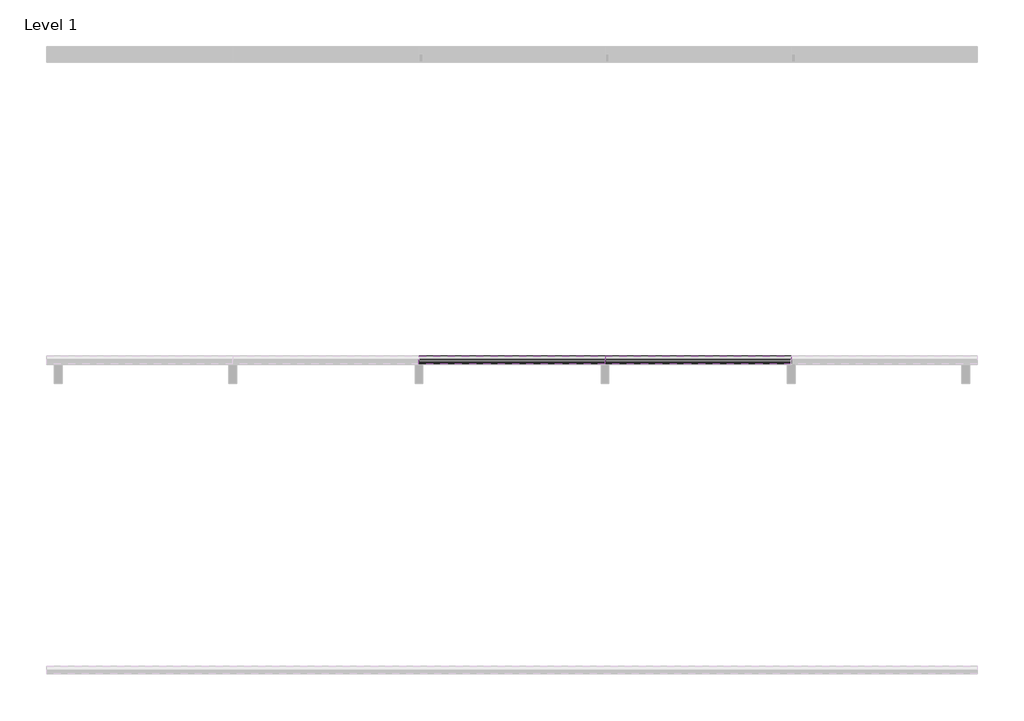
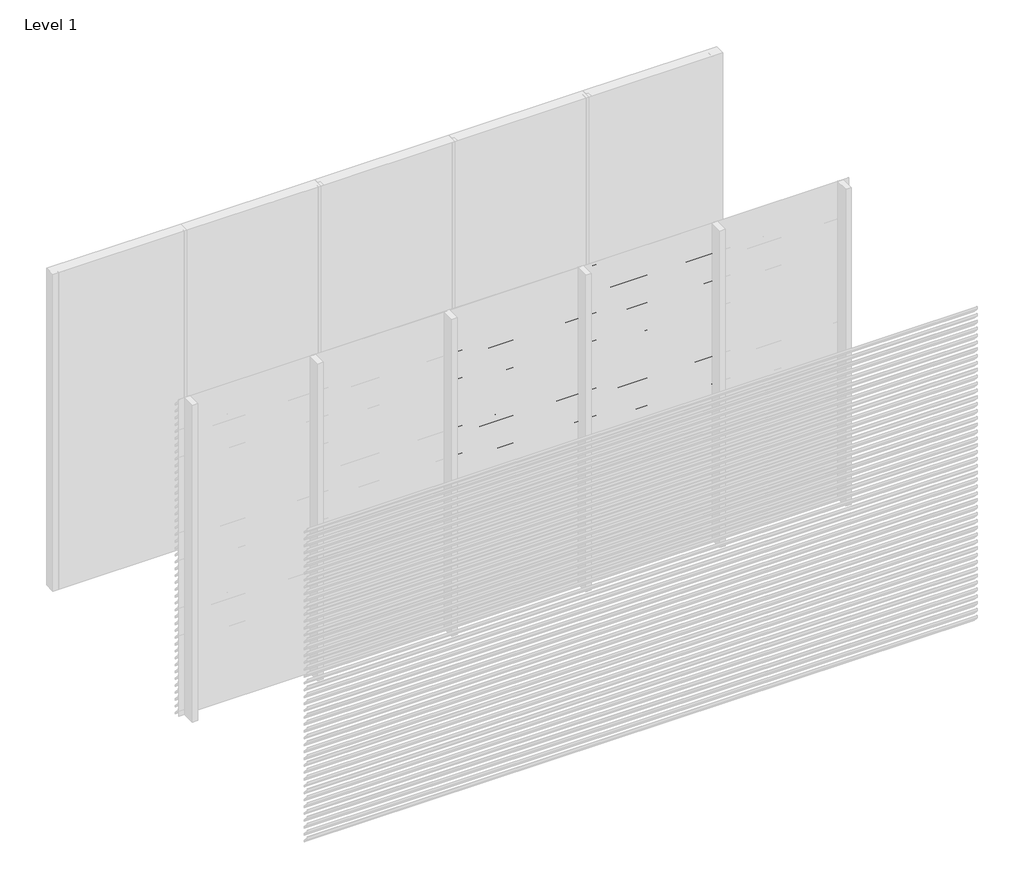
# One storey, part 3 of 12: 95 proxies.
"""IFC4 building model written with IfcOpenShell, lengths in millimetres."""

from ifc_helpers import new_model, si_unit, frame, origin, place, context, project, spatial, polyline, outline, extrude, element, save

model = new_model("IFC4")

# Units and contexts
model_context = context("Model", 3, world=origin())
ifc_project = project(units=[si_unit("LENGTHUNIT", "METRE", prefix="MILLI")], contexts=[model_context])

# Site, building, storey
site = spatial("IfcSite", under=ifc_project)
building = spatial("IfcBuilding", under=site)
storey = spatial("IfcBuildingStorey", under=building, Name="Level 1", Elevation=0.0)

# Proxies
placement = place(None, origin())
element("IfcBuildingElementProxy", 1, Name="Wall Sweeps", at=placement, inside=storey, context=model_context, shape_type="SweptSolid", body=[
    extrude(outline(polyline([(-17995.0, 2990.0), (-17995.0, 2980.7409854), (-17946.0, 2930.0), (-17946.0, 2914.0), (-17997.0, 2966.812046), (-17997.0, 2990.0), (-17995.0, 2990.0)])), frame((3599.9999999, 0.0, 0.0), z_axis=(1.0, 0.0, 0.0), x_axis=(0.0, 1.0, 0.0)), (0.0, 0.0, 1.0), 1199.9999999),
])
element("IfcBuildingElementProxy", 2, Name="Wall Sweeps", at=placement, inside=storey, context=model_context, shape_type="SweptSolid", body=[
    extrude(outline(polyline([(-17995.0, 2925.0), (-17995.0, 2915.7409854), (-17946.0, 2865.0), (-17946.0, 2849.0), (-17997.0, 2901.812046), (-17997.0, 2925.0), (-17995.0, 2925.0)])), frame((3599.9999999, 0.0, 0.0), z_axis=(1.0, 0.0, 0.0), x_axis=(0.0, 1.0, 0.0)), (0.0, 0.0, 1.0), 1199.9999999),
])
element("IfcBuildingElementProxy", 3, Name="Wall Sweeps", at=placement, inside=storey, context=model_context, shape_type="SweptSolid", body=[
    extrude(outline(polyline([(-17995.0, 2860.0), (-17995.0, 2850.7409854), (-17946.0, 2800.0), (-17946.0, 2784.0), (-17997.0, 2836.812046), (-17997.0, 2860.0), (-17995.0, 2860.0)])), frame((3599.9999999, 0.0, 0.0), z_axis=(1.0, 0.0, 0.0), x_axis=(0.0, 1.0, 0.0)), (0.0, 0.0, 1.0), 1199.9999999),
])
element("IfcBuildingElementProxy", 4, Name="Wall Sweeps", at=placement, inside=storey, context=model_context, shape_type="SweptSolid", body=[
    extrude(outline(polyline([(-17995.0, 2795.0), (-17995.0, 2785.7409854), (-17946.0, 2735.0), (-17946.0, 2719.0), (-17997.0, 2771.812046), (-17997.0, 2795.0), (-17995.0, 2795.0)])), frame((3599.9999999, 0.0, 0.0), z_axis=(1.0, 0.0, 0.0), x_axis=(0.0, 1.0, 0.0)), (0.0, 0.0, 1.0), 1199.9999999),
])
element("IfcBuildingElementProxy", 5, Name="Wall Sweeps", at=placement, inside=storey, context=model_context, shape_type="SweptSolid", body=[
    extrude(outline(polyline([(-17995.0, 2730.0), (-17995.0, 2720.7409854), (-17946.0, 2670.0), (-17946.0, 2654.0), (-17997.0, 2706.812046), (-17997.0, 2730.0), (-17995.0, 2730.0)])), frame((3599.9999999, 0.0, 0.0), z_axis=(1.0, 0.0, 0.0), x_axis=(0.0, 1.0, 0.0)), (0.0, 0.0, 1.0), 1199.9999999),
])
element("IfcBuildingElementProxy", 6, Name="Wall Sweeps", at=placement, inside=storey, context=model_context, shape_type="SweptSolid", body=[
    extrude(outline(polyline([(-17995.0, 2665.0), (-17995.0, 2655.7409854), (-17946.0, 2605.0), (-17946.0, 2589.0), (-17997.0, 2641.812046), (-17997.0, 2665.0), (-17995.0, 2665.0)])), frame((3599.9999999, 0.0, 0.0), z_axis=(1.0, 0.0, 0.0), x_axis=(0.0, 1.0, 0.0)), (0.0, 0.0, 1.0), 1199.9999999),
])
element("IfcBuildingElementProxy", 7, Name="Wall Sweeps", at=placement, inside=storey, context=model_context, shape_type="SweptSolid", body=[
    extrude(outline(polyline([(-17995.0, 2600.0), (-17995.0, 2590.7409854), (-17946.0, 2540.0), (-17946.0, 2524.0), (-17997.0, 2576.812046), (-17997.0, 2600.0), (-17995.0, 2600.0)])), frame((3599.9999999, 0.0, 0.0), z_axis=(1.0, 0.0, 0.0), x_axis=(0.0, 1.0, 0.0)), (0.0, 0.0, 1.0), 1199.9999999),
])
element("IfcBuildingElementProxy", 8, Name="Wall Sweeps", at=placement, inside=storey, context=model_context, shape_type="SweptSolid", body=[
    extrude(outline(polyline([(-17995.0, 2535.0), (-17995.0, 2525.7409854), (-17946.0, 2475.0), (-17946.0, 2459.0), (-17997.0, 2511.812046), (-17997.0, 2535.0), (-17995.0, 2535.0)])), frame((3599.9999999, 0.0, 0.0), z_axis=(1.0, 0.0, 0.0), x_axis=(0.0, 1.0, 0.0)), (0.0, 0.0, 1.0), 1199.9999999),
])
element("IfcBuildingElementProxy", 9, Name="Wall Sweeps", at=placement, inside=storey, context=model_context, shape_type="SweptSolid", body=[
    extrude(outline(polyline([(-17995.0, 2470.0), (-17995.0, 2460.7409854), (-17946.0, 2410.0), (-17946.0, 2394.0), (-17997.0, 2446.812046), (-17997.0, 2470.0), (-17995.0, 2470.0)])), frame((3599.9999999, 0.0, 0.0), z_axis=(1.0, 0.0, 0.0), x_axis=(0.0, 1.0, 0.0)), (0.0, 0.0, 1.0), 1199.9999999),
])
element("IfcBuildingElementProxy", 10, Name="Wall Sweeps", at=placement, inside=storey, context=model_context, shape_type="SweptSolid", body=[
    extrude(outline(polyline([(-17995.0, 2405.0), (-17995.0, 2395.7409854), (-17946.0, 2345.0), (-17946.0, 2329.0), (-17997.0, 2381.812046), (-17997.0, 2405.0), (-17995.0, 2405.0)])), frame((3599.9999999, 0.0, 0.0), z_axis=(1.0, 0.0, 0.0), x_axis=(0.0, 1.0, 0.0)), (0.0, 0.0, 1.0), 1199.9999999),
])
element("IfcBuildingElementProxy", 11, Name="Wall Sweeps", at=placement, inside=storey, context=model_context, shape_type="SweptSolid", body=[
    extrude(outline(polyline([(-17995.0, 2340.0), (-17995.0, 2330.7409854), (-17946.0, 2280.0), (-17946.0, 2264.0), (-17997.0, 2316.812046), (-17997.0, 2340.0), (-17995.0, 2340.0)])), frame((3599.9999999, 0.0, 0.0), z_axis=(1.0, 0.0, 0.0), x_axis=(0.0, 1.0, 0.0)), (0.0, 0.0, 1.0), 1199.9999999),
])
element("IfcBuildingElementProxy", 12, Name="Wall Sweeps", at=placement, inside=storey, context=model_context, shape_type="SweptSolid", body=[
    extrude(outline(polyline([(-17995.0, 2275.0), (-17995.0, 2265.7409854), (-17946.0, 2215.0), (-17946.0, 2199.0), (-17997.0, 2251.812046), (-17997.0, 2275.0), (-17995.0, 2275.0)])), frame((3599.9999999, 0.0, 0.0), z_axis=(1.0, 0.0, 0.0), x_axis=(0.0, 1.0, 0.0)), (0.0, 0.0, 1.0), 1199.9999999),
])
element("IfcBuildingElementProxy", 13, Name="Wall Sweeps", at=placement, inside=storey, context=model_context, shape_type="SweptSolid", body=[
    extrude(outline(polyline([(-17995.0, 2210.0), (-17995.0, 2200.7409854), (-17946.0, 2150.0), (-17946.0, 2134.0), (-17997.0, 2186.812046), (-17997.0, 2210.0), (-17995.0, 2210.0)])), frame((3599.9999999, 0.0, 0.0), z_axis=(1.0, 0.0, 0.0), x_axis=(0.0, 1.0, 0.0)), (0.0, 0.0, 1.0), 1199.9999999),
])
element("IfcBuildingElementProxy", 14, Name="Wall Sweeps", at=placement, inside=storey, context=model_context, shape_type="SweptSolid", body=[
    extrude(outline(polyline([(-17995.0, 2145.0), (-17995.0, 2135.7409854), (-17946.0, 2085.0), (-17946.0, 2069.0), (-17997.0, 2121.812046), (-17997.0, 2145.0), (-17995.0, 2145.0)])), frame((3599.9999999, 0.0, 0.0), z_axis=(1.0, 0.0, 0.0), x_axis=(0.0, 1.0, 0.0)), (0.0, 0.0, 1.0), 1199.9999999),
])
element("IfcBuildingElementProxy", 15, Name="Wall Sweeps", at=placement, inside=storey, context=model_context, shape_type="SweptSolid", body=[
    extrude(outline(polyline([(-17995.0, 2080.0), (-17995.0, 2070.7409854), (-17946.0, 2020.0), (-17946.0, 2004.0), (-17997.0, 2056.812046), (-17997.0, 2080.0), (-17995.0, 2080.0)])), frame((3599.9999999, 0.0, 0.0), z_axis=(1.0, 0.0, 0.0), x_axis=(0.0, 1.0, 0.0)), (0.0, 0.0, 1.0), 1199.9999999),
])
element("IfcBuildingElementProxy", 16, Name="Wall Sweeps", at=placement, inside=storey, context=model_context, shape_type="SweptSolid", body=[
    extrude(outline(polyline([(-17995.0, 2015.0), (-17995.0, 2005.7409854), (-17946.0, 1955.0), (-17946.0, 1939.0), (-17997.0, 1991.812046), (-17997.0, 2015.0), (-17995.0, 2015.0)])), frame((3599.9999999, 0.0, 0.0), z_axis=(1.0, 0.0, 0.0), x_axis=(0.0, 1.0, 0.0)), (0.0, 0.0, 1.0), 1199.9999999),
])
element("IfcBuildingElementProxy", 17, Name="Wall Sweeps", at=placement, inside=storey, context=model_context, shape_type="SweptSolid", body=[
    extrude(outline(polyline([(-17995.0, 1950.0), (-17995.0, 1940.7409854), (-17946.0, 1890.0), (-17946.0, 1874.0), (-17997.0, 1926.812046), (-17997.0, 1950.0), (-17995.0, 1950.0)])), frame((3599.9999999, 0.0, 0.0), z_axis=(1.0, 0.0, 0.0), x_axis=(0.0, 1.0, 0.0)), (0.0, 0.0, 1.0), 1199.9999999),
])
element("IfcBuildingElementProxy", 18, Name="Wall Sweeps", at=placement, inside=storey, context=model_context, shape_type="SweptSolid", body=[
    extrude(outline(polyline([(-17995.0, 1885.0), (-17995.0, 1875.7409854), (-17946.0, 1825.0), (-17946.0, 1809.0), (-17997.0, 1861.812046), (-17997.0, 1885.0), (-17995.0, 1885.0)])), frame((3599.9999999, 0.0, 0.0), z_axis=(1.0, 0.0, 0.0), x_axis=(0.0, 1.0, 0.0)), (0.0, 0.0, 1.0), 1199.9999999),
])
element("IfcBuildingElementProxy", 19, Name="Wall Sweeps", at=placement, inside=storey, context=model_context, shape_type="SweptSolid", body=[
    extrude(outline(polyline([(-17995.0, 1820.0), (-17995.0, 1810.7409854), (-17946.0, 1760.0), (-17946.0, 1744.0), (-17997.0, 1796.812046), (-17997.0, 1820.0), (-17995.0, 1820.0)])), frame((3599.9999999, 0.0, 0.0), z_axis=(1.0, 0.0, 0.0), x_axis=(0.0, 1.0, 0.0)), (0.0, 0.0, 1.0), 1199.9999999),
])
element("IfcBuildingElementProxy", 20, Name="Wall Sweeps", at=placement, inside=storey, context=model_context, shape_type="SweptSolid", body=[
    extrude(outline(polyline([(-17995.0, 1755.0), (-17995.0, 1745.7409854), (-17946.0, 1695.0), (-17946.0, 1679.0), (-17997.0, 1731.812046), (-17997.0, 1755.0), (-17995.0, 1755.0)])), frame((3599.9999999, 0.0, 0.0), z_axis=(1.0, 0.0, 0.0), x_axis=(0.0, 1.0, 0.0)), (0.0, 0.0, 1.0), 1199.9999999),
])
element("IfcBuildingElementProxy", 21, Name="Wall Sweeps", at=placement, inside=storey, context=model_context, shape_type="SweptSolid", body=[
    extrude(outline(polyline([(-17995.0, 1690.0), (-17995.0, 1680.7409854), (-17946.0, 1630.0), (-17946.0, 1614.0), (-17997.0, 1666.812046), (-17997.0, 1690.0), (-17995.0, 1690.0)])), frame((3599.9999999, 0.0, 0.0), z_axis=(1.0, 0.0, 0.0), x_axis=(0.0, 1.0, 0.0)), (0.0, 0.0, 1.0), 1199.9999999),
])
element("IfcBuildingElementProxy", 22, Name="Wall Sweeps", at=placement, inside=storey, context=model_context, shape_type="SweptSolid", body=[
    extrude(outline(polyline([(-17995.0, 1625.0), (-17995.0, 1615.7409854), (-17946.0, 1565.0), (-17946.0, 1549.0), (-17997.0, 1601.812046), (-17997.0, 1625.0), (-17995.0, 1625.0)])), frame((3599.9999999, 0.0, 0.0), z_axis=(1.0, 0.0, 0.0), x_axis=(0.0, 1.0, 0.0)), (0.0, 0.0, 1.0), 1199.9999999),
])
element("IfcBuildingElementProxy", 23, Name="Wall Sweeps", at=placement, inside=storey, context=model_context, shape_type="SweptSolid", body=[
    extrude(outline(polyline([(-17995.0, 1560.0), (-17995.0, 1550.7409854), (-17946.0, 1500.0), (-17946.0, 1484.0), (-17997.0, 1536.812046), (-17997.0, 1560.0), (-17995.0, 1560.0)])), frame((3599.9999999, 0.0, 0.0), z_axis=(1.0, 0.0, 0.0), x_axis=(0.0, 1.0, 0.0)), (0.0, 0.0, 1.0), 1199.9999999),
])
element("IfcBuildingElementProxy", 24, Name="Wall Sweeps", at=placement, inside=storey, context=model_context, shape_type="SweptSolid", body=[
    extrude(outline(polyline([(-17995.0, 1495.0), (-17995.0, 1485.7409854), (-17946.0, 1435.0), (-17946.0, 1419.0), (-17997.0, 1471.812046), (-17997.0, 1495.0), (-17995.0, 1495.0)])), frame((3599.9999999, 0.0, 0.0), z_axis=(1.0, 0.0, 0.0), x_axis=(0.0, 1.0, 0.0)), (0.0, 0.0, 1.0), 1199.9999999),
])
element("IfcBuildingElementProxy", 25, Name="Wall Sweeps", at=placement, inside=storey, context=model_context, shape_type="SweptSolid", body=[
    extrude(outline(polyline([(-17995.0, 1430.0), (-17995.0, 1420.7409854), (-17946.0, 1370.0), (-17946.0, 1354.0), (-17997.0, 1406.812046), (-17997.0, 1430.0), (-17995.0, 1430.0)])), frame((3599.9999999, 0.0, 0.0), z_axis=(1.0, 0.0, 0.0), x_axis=(0.0, 1.0, 0.0)), (0.0, 0.0, 1.0), 1199.9999999),
])
element("IfcBuildingElementProxy", 26, Name="Wall Sweeps", at=placement, inside=storey, context=model_context, shape_type="SweptSolid", body=[
    extrude(outline(polyline([(-17995.0, 1365.0), (-17995.0, 1355.7409854), (-17946.0, 1305.0), (-17946.0, 1289.0), (-17997.0, 1341.812046), (-17997.0, 1365.0), (-17995.0, 1365.0)])), frame((3599.9999999, 0.0, 0.0), z_axis=(1.0, 0.0, 0.0), x_axis=(0.0, 1.0, 0.0)), (0.0, 0.0, 1.0), 1199.9999999),
])
element("IfcBuildingElementProxy", 27, Name="Wall Sweeps", at=placement, inside=storey, context=model_context, shape_type="SweptSolid", body=[
    extrude(outline(polyline([(-17995.0, 1300.0), (-17995.0, 1290.7409854), (-17946.0, 1240.0), (-17946.0, 1224.0), (-17997.0, 1276.812046), (-17997.0, 1300.0), (-17995.0, 1300.0)])), frame((3599.9999999, 0.0, 0.0), z_axis=(1.0, 0.0, 0.0), x_axis=(0.0, 1.0, 0.0)), (0.0, 0.0, 1.0), 1199.9999999),
])
element("IfcBuildingElementProxy", 28, Name="Wall Sweeps", at=placement, inside=storey, context=model_context, shape_type="SweptSolid", body=[
    extrude(outline(polyline([(-17995.0, 1235.0), (-17995.0, 1225.7409854), (-17946.0, 1175.0), (-17946.0, 1159.0), (-17997.0, 1211.812046), (-17997.0, 1235.0), (-17995.0, 1235.0)])), frame((3599.9999999, 0.0, 0.0), z_axis=(1.0, 0.0, 0.0), x_axis=(0.0, 1.0, 0.0)), (0.0, 0.0, 1.0), 1199.9999999),
])
element("IfcBuildingElementProxy", 29, Name="Wall Sweeps", at=placement, inside=storey, context=model_context, shape_type="SweptSolid", body=[
    extrude(outline(polyline([(-17995.0, 1170.0), (-17995.0, 1160.7409854), (-17946.0, 1110.0), (-17946.0, 1094.0), (-17997.0, 1146.812046), (-17997.0, 1170.0), (-17995.0, 1170.0)])), frame((3599.9999999, 0.0, 0.0), z_axis=(1.0, 0.0, 0.0), x_axis=(0.0, 1.0, 0.0)), (0.0, 0.0, 1.0), 1199.9999999),
])
element("IfcBuildingElementProxy", 30, Name="Wall Sweeps", at=placement, inside=storey, context=model_context, shape_type="SweptSolid", body=[
    extrude(outline(polyline([(-17995.0, 1105.0), (-17995.0, 1095.7409854), (-17946.0, 1045.0), (-17946.0, 1029.0), (-17997.0, 1081.812046), (-17997.0, 1105.0), (-17995.0, 1105.0)])), frame((3599.9999999, 0.0, 0.0), z_axis=(1.0, 0.0, 0.0), x_axis=(0.0, 1.0, 0.0)), (0.0, 0.0, 1.0), 1199.9999999),
])
element("IfcBuildingElementProxy", 31, Name="Wall Sweeps", at=placement, inside=storey, context=model_context, shape_type="SweptSolid", body=[
    extrude(outline(polyline([(-17995.0, 1040.0), (-17995.0, 1030.7409854), (-17946.0, 980.0), (-17946.0, 964.0), (-17997.0, 1016.812046), (-17997.0, 1040.0), (-17995.0, 1040.0)])), frame((3599.9999999, 0.0, 0.0), z_axis=(1.0, 0.0, 0.0), x_axis=(0.0, 1.0, 0.0)), (0.0, 0.0, 1.0), 1199.9999999),
])
element("IfcBuildingElementProxy", 32, Name="Wall Sweeps", at=placement, inside=storey, context=model_context, shape_type="SweptSolid", body=[
    extrude(outline(polyline([(-17995.0, 975.0), (-17995.0, 965.7409854), (-17946.0, 915.0), (-17946.0, 899.0), (-17997.0, 951.812046), (-17997.0, 975.0), (-17995.0, 975.0)])), frame((3599.9999999, 0.0, 0.0), z_axis=(1.0, 0.0, 0.0), x_axis=(0.0, 1.0, 0.0)), (0.0, 0.0, 1.0), 1199.9999999),
])
element("IfcBuildingElementProxy", 33, Name="Wall Sweeps", at=placement, inside=storey, context=model_context, shape_type="SweptSolid", body=[
    extrude(outline(polyline([(-17995.0, 910.0), (-17995.0, 900.7409854), (-17946.0, 850.0), (-17946.0, 834.0), (-17997.0, 886.812046), (-17997.0, 910.0), (-17995.0, 910.0)])), frame((3599.9999999, 0.0, 0.0), z_axis=(1.0, 0.0, 0.0), x_axis=(0.0, 1.0, 0.0)), (0.0, 0.0, 1.0), 1199.9999999),
])
element("IfcBuildingElementProxy", 34, Name="Wall Sweeps", at=placement, inside=storey, context=model_context, shape_type="SweptSolid", body=[
    extrude(outline(polyline([(-17995.0, 845.0), (-17995.0, 835.7409854), (-17946.0, 785.0), (-17946.0, 769.0), (-17997.0, 821.812046), (-17997.0, 845.0), (-17995.0, 845.0)])), frame((3599.9999999, 0.0, 0.0), z_axis=(1.0, 0.0, 0.0), x_axis=(0.0, 1.0, 0.0)), (0.0, 0.0, 1.0), 1199.9999999),
])
element("IfcBuildingElementProxy", 35, Name="Wall Sweeps", at=placement, inside=storey, context=model_context, shape_type="SweptSolid", body=[
    extrude(outline(polyline([(-17995.0, 780.0), (-17995.0, 770.7409854), (-17946.0, 720.0), (-17946.0, 704.0), (-17997.0, 756.812046), (-17997.0, 780.0), (-17995.0, 780.0)])), frame((3599.9999999, 0.0, 0.0), z_axis=(1.0, 0.0, 0.0), x_axis=(0.0, 1.0, 0.0)), (0.0, 0.0, 1.0), 1199.9999999),
])
element("IfcBuildingElementProxy", 36, Name="Wall Sweeps", at=placement, inside=storey, context=model_context, shape_type="SweptSolid", body=[
    extrude(outline(polyline([(-17995.0, 715.0), (-17995.0, 705.7409854), (-17946.0, 655.0), (-17946.0, 639.0), (-17997.0, 691.812046), (-17997.0, 715.0), (-17995.0, 715.0)])), frame((3599.9999999, 0.0, 0.0), z_axis=(1.0, 0.0, 0.0), x_axis=(0.0, 1.0, 0.0)), (0.0, 0.0, 1.0), 1199.9999999),
])
element("IfcBuildingElementProxy", 37, Name="Wall Sweeps", at=placement, inside=storey, context=model_context, shape_type="SweptSolid", body=[
    extrude(outline(polyline([(-17995.0, 2990.0), (-17995.0, 2980.7409854), (-17946.0, 2930.0), (-17946.0, 2914.0), (-17997.0, 2966.812046), (-17997.0, 2990.0), (-17995.0, 2990.0)])), frame((2400.0000001, 0.0, 0.0), z_axis=(1.0, 0.0, 0.0), x_axis=(0.0, 1.0, 0.0)), (0.0, 0.0, 1.0), 1199.9999999),
])
element("IfcBuildingElementProxy", 38, Name="Wall Sweeps", at=placement, inside=storey, context=model_context, shape_type="SweptSolid", body=[
    extrude(outline(polyline([(-17995.0, 2925.0), (-17995.0, 2915.7409854), (-17946.0, 2865.0), (-17946.0, 2849.0), (-17997.0, 2901.812046), (-17997.0, 2925.0), (-17995.0, 2925.0)])), frame((2400.0000001, 0.0, 0.0), z_axis=(1.0, 0.0, 0.0), x_axis=(0.0, 1.0, 0.0)), (0.0, 0.0, 1.0), 1199.9999999),
])
element("IfcBuildingElementProxy", 39, Name="Wall Sweeps", at=placement, inside=storey, context=model_context, shape_type="SweptSolid", body=[
    extrude(outline(polyline([(-17995.0, 2860.0), (-17995.0, 2850.7409854), (-17946.0, 2800.0), (-17946.0, 2784.0), (-17997.0, 2836.812046), (-17997.0, 2860.0), (-17995.0, 2860.0)])), frame((2400.0000001, 0.0, 0.0), z_axis=(1.0, 0.0, 0.0), x_axis=(0.0, 1.0, 0.0)), (0.0, 0.0, 1.0), 1199.9999999),
])
element("IfcBuildingElementProxy", 40, Name="Wall Sweeps", at=placement, inside=storey, context=model_context, shape_type="SweptSolid", body=[
    extrude(outline(polyline([(-17995.0, 2795.0), (-17995.0, 2785.7409854), (-17946.0, 2735.0), (-17946.0, 2719.0), (-17997.0, 2771.812046), (-17997.0, 2795.0), (-17995.0, 2795.0)])), frame((2400.0000001, 0.0, 0.0), z_axis=(1.0, 0.0, 0.0), x_axis=(0.0, 1.0, 0.0)), (0.0, 0.0, 1.0), 1199.9999999),
])
element("IfcBuildingElementProxy", 41, Name="Wall Sweeps", at=placement, inside=storey, context=model_context, shape_type="SweptSolid", body=[
    extrude(outline(polyline([(-17995.0, 2730.0), (-17995.0, 2720.7409854), (-17946.0, 2670.0), (-17946.0, 2654.0), (-17997.0, 2706.812046), (-17997.0, 2730.0), (-17995.0, 2730.0)])), frame((2400.0000001, 0.0, 0.0), z_axis=(1.0, 0.0, 0.0), x_axis=(0.0, 1.0, 0.0)), (0.0, 0.0, 1.0), 1199.9999999),
])
element("IfcBuildingElementProxy", 42, Name="Wall Sweeps", at=placement, inside=storey, context=model_context, shape_type="SweptSolid", body=[
    extrude(outline(polyline([(-17995.0, 2665.0), (-17995.0, 2655.7409854), (-17946.0, 2605.0), (-17946.0, 2589.0), (-17997.0, 2641.812046), (-17997.0, 2665.0), (-17995.0, 2665.0)])), frame((2400.0000001, 0.0, 0.0), z_axis=(1.0, 0.0, 0.0), x_axis=(0.0, 1.0, 0.0)), (0.0, 0.0, 1.0), 1199.9999999),
])
element("IfcBuildingElementProxy", 43, Name="Wall Sweeps", at=placement, inside=storey, context=model_context, shape_type="SweptSolid", body=[
    extrude(outline(polyline([(-17995.0, 2600.0), (-17995.0, 2590.7409854), (-17946.0, 2540.0), (-17946.0, 2524.0), (-17997.0, 2576.812046), (-17997.0, 2600.0), (-17995.0, 2600.0)])), frame((2400.0000001, 0.0, 0.0), z_axis=(1.0, 0.0, 0.0), x_axis=(0.0, 1.0, 0.0)), (0.0, 0.0, 1.0), 1199.9999999),
])
element("IfcBuildingElementProxy", 44, Name="Wall Sweeps", at=placement, inside=storey, context=model_context, shape_type="SweptSolid", body=[
    extrude(outline(polyline([(-17995.0, 2535.0), (-17995.0, 2525.7409854), (-17946.0, 2475.0), (-17946.0, 2459.0), (-17997.0, 2511.812046), (-17997.0, 2535.0), (-17995.0, 2535.0)])), frame((2400.0000001, 0.0, 0.0), z_axis=(1.0, 0.0, 0.0), x_axis=(0.0, 1.0, 0.0)), (0.0, 0.0, 1.0), 1199.9999999),
])
element("IfcBuildingElementProxy", 45, Name="Wall Sweeps", at=placement, inside=storey, context=model_context, shape_type="SweptSolid", body=[
    extrude(outline(polyline([(-17995.0, 2470.0), (-17995.0, 2460.7409854), (-17946.0, 2410.0), (-17946.0, 2394.0), (-17997.0, 2446.812046), (-17997.0, 2470.0), (-17995.0, 2470.0)])), frame((2400.0000001, 0.0, 0.0), z_axis=(1.0, 0.0, 0.0), x_axis=(0.0, 1.0, 0.0)), (0.0, 0.0, 1.0), 1199.9999999),
])
element("IfcBuildingElementProxy", 46, Name="Wall Sweeps", at=placement, inside=storey, context=model_context, shape_type="SweptSolid", body=[
    extrude(outline(polyline([(-17995.0, 2405.0), (-17995.0, 2395.7409854), (-17946.0, 2345.0), (-17946.0, 2329.0), (-17997.0, 2381.812046), (-17997.0, 2405.0), (-17995.0, 2405.0)])), frame((2400.0000001, 0.0, 0.0), z_axis=(1.0, 0.0, 0.0), x_axis=(0.0, 1.0, 0.0)), (0.0, 0.0, 1.0), 1199.9999999),
])
element("IfcBuildingElementProxy", 47, Name="Wall Sweeps", at=placement, inside=storey, context=model_context, shape_type="SweptSolid", body=[
    extrude(outline(polyline([(-17995.0, 2340.0), (-17995.0, 2330.7409854), (-17946.0, 2280.0), (-17946.0, 2264.0), (-17997.0, 2316.812046), (-17997.0, 2340.0), (-17995.0, 2340.0)])), frame((2400.0000001, 0.0, 0.0), z_axis=(1.0, 0.0, 0.0), x_axis=(0.0, 1.0, 0.0)), (0.0, 0.0, 1.0), 1199.9999999),
])
element("IfcBuildingElementProxy", 48, Name="Wall Sweeps", at=placement, inside=storey, context=model_context, shape_type="SweptSolid", body=[
    extrude(outline(polyline([(-17995.0, 2275.0), (-17995.0, 2265.7409854), (-17946.0, 2215.0), (-17946.0, 2199.0), (-17997.0, 2251.812046), (-17997.0, 2275.0), (-17995.0, 2275.0)])), frame((2400.0000001, 0.0, 0.0), z_axis=(1.0, 0.0, 0.0), x_axis=(0.0, 1.0, 0.0)), (0.0, 0.0, 1.0), 1199.9999999),
])
element("IfcBuildingElementProxy", 49, Name="Wall Sweeps", at=placement, inside=storey, context=model_context, shape_type="SweptSolid", body=[
    extrude(outline(polyline([(-17995.0, 2210.0), (-17995.0, 2200.7409854), (-17946.0, 2150.0), (-17946.0, 2134.0), (-17997.0, 2186.812046), (-17997.0, 2210.0), (-17995.0, 2210.0)])), frame((2400.0000001, 0.0, 0.0), z_axis=(1.0, 0.0, 0.0), x_axis=(0.0, 1.0, 0.0)), (0.0, 0.0, 1.0), 1199.9999999),
])
element("IfcBuildingElementProxy", 50, Name="Wall Sweeps", at=placement, inside=storey, context=model_context, shape_type="SweptSolid", body=[
    extrude(outline(polyline([(-17995.0, 2145.0), (-17995.0, 2135.7409854), (-17946.0, 2085.0), (-17946.0, 2069.0), (-17997.0, 2121.812046), (-17997.0, 2145.0), (-17995.0, 2145.0)])), frame((2400.0000001, 0.0, 0.0), z_axis=(1.0, 0.0, 0.0), x_axis=(0.0, 1.0, 0.0)), (0.0, 0.0, 1.0), 1199.9999999),
])
element("IfcBuildingElementProxy", 51, Name="Wall Sweeps", at=placement, inside=storey, context=model_context, shape_type="SweptSolid", body=[
    extrude(outline(polyline([(-17995.0, 2080.0), (-17995.0, 2070.7409854), (-17946.0, 2020.0), (-17946.0, 2004.0), (-17997.0, 2056.812046), (-17997.0, 2080.0), (-17995.0, 2080.0)])), frame((2400.0000001, 0.0, 0.0), z_axis=(1.0, 0.0, 0.0), x_axis=(0.0, 1.0, 0.0)), (0.0, 0.0, 1.0), 1199.9999999),
])
element("IfcBuildingElementProxy", 52, Name="Wall Sweeps", at=placement, inside=storey, context=model_context, shape_type="SweptSolid", body=[
    extrude(outline(polyline([(-17995.0, 2015.0), (-17995.0, 2005.7409854), (-17946.0, 1955.0), (-17946.0, 1939.0), (-17997.0, 1991.812046), (-17997.0, 2015.0), (-17995.0, 2015.0)])), frame((2400.0000001, 0.0, 0.0), z_axis=(1.0, 0.0, 0.0), x_axis=(0.0, 1.0, 0.0)), (0.0, 0.0, 1.0), 1199.9999999),
])
element("IfcBuildingElementProxy", 53, Name="Wall Sweeps", at=placement, inside=storey, context=model_context, shape_type="SweptSolid", body=[
    extrude(outline(polyline([(-17995.0, 1950.0), (-17995.0, 1940.7409854), (-17946.0, 1890.0), (-17946.0, 1874.0), (-17997.0, 1926.812046), (-17997.0, 1950.0), (-17995.0, 1950.0)])), frame((2400.0000001, 0.0, 0.0), z_axis=(1.0, 0.0, 0.0), x_axis=(0.0, 1.0, 0.0)), (0.0, 0.0, 1.0), 1199.9999999),
])
element("IfcBuildingElementProxy", 54, Name="Wall Sweeps", at=placement, inside=storey, context=model_context, shape_type="SweptSolid", body=[
    extrude(outline(polyline([(-17995.0, 1885.0), (-17995.0, 1875.7409854), (-17946.0, 1825.0), (-17946.0, 1809.0), (-17997.0, 1861.812046), (-17997.0, 1885.0), (-17995.0, 1885.0)])), frame((2400.0000001, 0.0, 0.0), z_axis=(1.0, 0.0, 0.0), x_axis=(0.0, 1.0, 0.0)), (0.0, 0.0, 1.0), 1199.9999999),
])
element("IfcBuildingElementProxy", 55, Name="Wall Sweeps", at=placement, inside=storey, context=model_context, shape_type="SweptSolid", body=[
    extrude(outline(polyline([(-17995.0, 1820.0), (-17995.0, 1810.7409854), (-17946.0, 1760.0), (-17946.0, 1744.0), (-17997.0, 1796.812046), (-17997.0, 1820.0), (-17995.0, 1820.0)])), frame((2400.0000001, 0.0, 0.0), z_axis=(1.0, 0.0, 0.0), x_axis=(0.0, 1.0, 0.0)), (0.0, 0.0, 1.0), 1199.9999999),
])
element("IfcBuildingElementProxy", 56, Name="Wall Sweeps", at=placement, inside=storey, context=model_context, shape_type="SweptSolid", body=[
    extrude(outline(polyline([(-17995.0, 1755.0), (-17995.0, 1745.7409854), (-17946.0, 1695.0), (-17946.0, 1679.0), (-17997.0, 1731.812046), (-17997.0, 1755.0), (-17995.0, 1755.0)])), frame((2400.0000001, 0.0, 0.0), z_axis=(1.0, 0.0, 0.0), x_axis=(0.0, 1.0, 0.0)), (0.0, 0.0, 1.0), 1199.9999999),
])
element("IfcBuildingElementProxy", 57, Name="Wall Sweeps", at=placement, inside=storey, context=model_context, shape_type="SweptSolid", body=[
    extrude(outline(polyline([(-17995.0, 1690.0), (-17995.0, 1680.7409854), (-17946.0, 1630.0), (-17946.0, 1614.0), (-17997.0, 1666.812046), (-17997.0, 1690.0), (-17995.0, 1690.0)])), frame((2400.0000001, 0.0, 0.0), z_axis=(1.0, 0.0, 0.0), x_axis=(0.0, 1.0, 0.0)), (0.0, 0.0, 1.0), 1199.9999999),
])
element("IfcBuildingElementProxy", 58, Name="Wall Sweeps", at=placement, inside=storey, context=model_context, shape_type="SweptSolid", body=[
    extrude(outline(polyline([(-17995.0, 1625.0), (-17995.0, 1615.7409854), (-17946.0, 1565.0), (-17946.0, 1549.0), (-17997.0, 1601.812046), (-17997.0, 1625.0), (-17995.0, 1625.0)])), frame((2400.0000001, 0.0, 0.0), z_axis=(1.0, 0.0, 0.0), x_axis=(0.0, 1.0, 0.0)), (0.0, 0.0, 1.0), 1199.9999999),
])
element("IfcBuildingElementProxy", 59, Name="Wall Sweeps", at=placement, inside=storey, context=model_context, shape_type="SweptSolid", body=[
    extrude(outline(polyline([(-17995.0, 1560.0), (-17995.0, 1550.7409854), (-17946.0, 1500.0), (-17946.0, 1484.0), (-17997.0, 1536.812046), (-17997.0, 1560.0), (-17995.0, 1560.0)])), frame((2400.0000001, 0.0, 0.0), z_axis=(1.0, 0.0, 0.0), x_axis=(0.0, 1.0, 0.0)), (0.0, 0.0, 1.0), 1199.9999999),
])
element("IfcBuildingElementProxy", 60, Name="Wall Sweeps", at=placement, inside=storey, context=model_context, shape_type="SweptSolid", body=[
    extrude(outline(polyline([(-17995.0, 1495.0), (-17995.0, 1485.7409854), (-17946.0, 1435.0), (-17946.0, 1419.0), (-17997.0, 1471.812046), (-17997.0, 1495.0), (-17995.0, 1495.0)])), frame((2400.0000001, 0.0, 0.0), z_axis=(1.0, 0.0, 0.0), x_axis=(0.0, 1.0, 0.0)), (0.0, 0.0, 1.0), 1199.9999999),
])
element("IfcBuildingElementProxy", 61, Name="Wall Sweeps", at=placement, inside=storey, context=model_context, shape_type="SweptSolid", body=[
    extrude(outline(polyline([(-17995.0, 1430.0), (-17995.0, 1420.7409854), (-17946.0, 1370.0), (-17946.0, 1354.0), (-17997.0, 1406.812046), (-17997.0, 1430.0), (-17995.0, 1430.0)])), frame((2400.0000001, 0.0, 0.0), z_axis=(1.0, 0.0, 0.0), x_axis=(0.0, 1.0, 0.0)), (0.0, 0.0, 1.0), 1199.9999999),
])
element("IfcBuildingElementProxy", 62, Name="Wall Sweeps", at=placement, inside=storey, context=model_context, shape_type="SweptSolid", body=[
    extrude(outline(polyline([(-17995.0, 1365.0), (-17995.0, 1355.7409854), (-17946.0, 1305.0), (-17946.0, 1289.0), (-17997.0, 1341.812046), (-17997.0, 1365.0), (-17995.0, 1365.0)])), frame((2400.0000001, 0.0, 0.0), z_axis=(1.0, 0.0, 0.0), x_axis=(0.0, 1.0, 0.0)), (0.0, 0.0, 1.0), 1199.9999999),
])
element("IfcBuildingElementProxy", 63, Name="Wall Sweeps", at=placement, inside=storey, context=model_context, shape_type="SweptSolid", body=[
    extrude(outline(polyline([(-17995.0, 1300.0), (-17995.0, 1290.7409854), (-17946.0, 1240.0), (-17946.0, 1224.0), (-17997.0, 1276.812046), (-17997.0, 1300.0), (-17995.0, 1300.0)])), frame((2400.0000001, 0.0, 0.0), z_axis=(1.0, 0.0, 0.0), x_axis=(0.0, 1.0, 0.0)), (0.0, 0.0, 1.0), 1199.9999999),
])
element("IfcBuildingElementProxy", 64, Name="Wall Sweeps", at=placement, inside=storey, context=model_context, shape_type="SweptSolid", body=[
    extrude(outline(polyline([(-17995.0, 1235.0), (-17995.0, 1225.7409854), (-17946.0, 1175.0), (-17946.0, 1159.0), (-17997.0, 1211.812046), (-17997.0, 1235.0), (-17995.0, 1235.0)])), frame((2400.0000001, 0.0, 0.0), z_axis=(1.0, 0.0, 0.0), x_axis=(0.0, 1.0, 0.0)), (0.0, 0.0, 1.0), 1199.9999999),
])
element("IfcBuildingElementProxy", 65, Name="Wall Sweeps", at=placement, inside=storey, context=model_context, shape_type="SweptSolid", body=[
    extrude(outline(polyline([(-17995.0, 1170.0), (-17995.0, 1160.7409854), (-17946.0, 1110.0), (-17946.0, 1094.0), (-17997.0, 1146.812046), (-17997.0, 1170.0), (-17995.0, 1170.0)])), frame((2400.0000001, 0.0, 0.0), z_axis=(1.0, 0.0, 0.0), x_axis=(0.0, 1.0, 0.0)), (0.0, 0.0, 1.0), 1199.9999999),
])
element("IfcBuildingElementProxy", 66, Name="Wall Sweeps", at=placement, inside=storey, context=model_context, shape_type="SweptSolid", body=[
    extrude(outline(polyline([(-17995.0, 1105.0), (-17995.0, 1095.7409854), (-17946.0, 1045.0), (-17946.0, 1029.0), (-17997.0, 1081.812046), (-17997.0, 1105.0), (-17995.0, 1105.0)])), frame((2400.0000001, 0.0, 0.0), z_axis=(1.0, 0.0, 0.0), x_axis=(0.0, 1.0, 0.0)), (0.0, 0.0, 1.0), 1199.9999999),
])
element("IfcBuildingElementProxy", 67, Name="Wall Sweeps", at=placement, inside=storey, context=model_context, shape_type="SweptSolid", body=[
    extrude(outline(polyline([(-17995.0, 1040.0), (-17995.0, 1030.7409854), (-17946.0, 980.0), (-17946.0, 964.0), (-17997.0, 1016.812046), (-17997.0, 1040.0), (-17995.0, 1040.0)])), frame((2400.0000001, 0.0, 0.0), z_axis=(1.0, 0.0, 0.0), x_axis=(0.0, 1.0, 0.0)), (0.0, 0.0, 1.0), 1199.9999999),
])
element("IfcBuildingElementProxy", 68, Name="Wall Sweeps", at=placement, inside=storey, context=model_context, shape_type="SweptSolid", body=[
    extrude(outline(polyline([(-17995.0, 975.0), (-17995.0, 965.7409854), (-17946.0, 915.0), (-17946.0, 899.0), (-17997.0, 951.812046), (-17997.0, 975.0), (-17995.0, 975.0)])), frame((2400.0000001, 0.0, 0.0), z_axis=(1.0, 0.0, 0.0), x_axis=(0.0, 1.0, 0.0)), (0.0, 0.0, 1.0), 1199.9999999),
])
element("IfcBuildingElementProxy", 69, Name="Wall Sweeps", at=placement, inside=storey, context=model_context, shape_type="SweptSolid", body=[
    extrude(outline(polyline([(-17995.0, 910.0), (-17995.0, 900.7409854), (-17946.0, 850.0), (-17946.0, 834.0), (-17997.0, 886.812046), (-17997.0, 910.0), (-17995.0, 910.0)])), frame((2400.0000001, 0.0, 0.0), z_axis=(1.0, 0.0, 0.0), x_axis=(0.0, 1.0, 0.0)), (0.0, 0.0, 1.0), 1199.9999999),
])
element("IfcBuildingElementProxy", 70, Name="Wall Sweeps", at=placement, inside=storey, context=model_context, shape_type="SweptSolid", body=[
    extrude(outline(polyline([(-17995.0, 845.0), (-17995.0, 835.7409854), (-17946.0, 785.0), (-17946.0, 769.0), (-17997.0, 821.812046), (-17997.0, 845.0), (-17995.0, 845.0)])), frame((2400.0000001, 0.0, 0.0), z_axis=(1.0, 0.0, 0.0), x_axis=(0.0, 1.0, 0.0)), (0.0, 0.0, 1.0), 1199.9999999),
])
element("IfcBuildingElementProxy", 71, Name="Wall Sweeps", at=placement, inside=storey, context=model_context, shape_type="SweptSolid", body=[
    extrude(outline(polyline([(-17995.0, 780.0), (-17995.0, 770.7409854), (-17946.0, 720.0), (-17946.0, 704.0), (-17997.0, 756.812046), (-17997.0, 780.0), (-17995.0, 780.0)])), frame((2400.0000001, 0.0, 0.0), z_axis=(1.0, 0.0, 0.0), x_axis=(0.0, 1.0, 0.0)), (0.0, 0.0, 1.0), 1199.9999999),
])
element("IfcBuildingElementProxy", 72, Name="Wall Sweeps", at=placement, inside=storey, context=model_context, shape_type="SweptSolid", body=[
    extrude(outline(polyline([(-17995.0, 715.0), (-17995.0, 705.7409854), (-17946.0, 655.0), (-17946.0, 639.0), (-17997.0, 691.812046), (-17997.0, 715.0), (-17995.0, 715.0)])), frame((2400.0000001, 0.0, 0.0), z_axis=(1.0, 0.0, 0.0), x_axis=(0.0, 1.0, 0.0)), (0.0, 0.0, 1.0), 1199.9999999),
])
element("IfcBuildingElementProxy", 73, Name="Wall Sweeps", at=placement, inside=storey, context=model_context, shape_type="SweptSolid", body=[
    extrude(outline(polyline([(-17995.0, 650.0), (-17995.0, 640.7409854), (-17946.0, 590.0), (-17946.0, 574.0), (-17997.0, 626.812046), (-17997.0, 650.0), (-17995.0, 650.0)])), frame((2400.0000001, 0.0, 0.0), z_axis=(1.0, 0.0, 0.0), x_axis=(0.0, 1.0, 0.0)), (0.0, 0.0, 1.0), 1199.9999999),
])
element("IfcBuildingElementProxy", 74, Name="Wall Sweeps", at=placement, inside=storey, context=model_context, shape_type="SweptSolid", body=[
    extrude(outline(polyline([(-17995.0, 585.0), (-17995.0, 575.7409854), (-17946.0, 525.0), (-17946.0, 509.0), (-17997.0, 561.812046), (-17997.0, 585.0), (-17995.0, 585.0)])), frame((2400.0000001, 0.0, 0.0), z_axis=(1.0, 0.0, 0.0), x_axis=(0.0, 1.0, 0.0)), (0.0, 0.0, 1.0), 1199.9999999),
])
element("IfcBuildingElementProxy", 75, Name="Wall Sweeps", at=placement, inside=storey, context=model_context, shape_type="SweptSolid", body=[
    extrude(outline(polyline([(-17995.0, 520.0), (-17995.0, 510.7409854), (-17946.0, 460.0), (-17946.0, 444.0), (-17997.0, 496.812046), (-17997.0, 520.0), (-17995.0, 520.0)])), frame((2400.0000001, 0.0, 0.0), z_axis=(1.0, 0.0, 0.0), x_axis=(0.0, 1.0, 0.0)), (0.0, 0.0, 1.0), 1199.9999999),
])
element("IfcBuildingElementProxy", 76, Name="Wall Sweeps", at=placement, inside=storey, context=model_context, shape_type="SweptSolid", body=[
    extrude(outline(polyline([(-17995.0, 455.0), (-17995.0, 445.7409854), (-17946.0, 395.0), (-17946.0, 379.0), (-17997.0, 431.812046), (-17997.0, 455.0), (-17995.0, 455.0)])), frame((2400.0000001, 0.0, 0.0), z_axis=(1.0, 0.0, 0.0), x_axis=(0.0, 1.0, 0.0)), (0.0, 0.0, 1.0), 1199.9999999),
])
element("IfcBuildingElementProxy", 77, Name="Wall Sweeps", at=placement, inside=storey, context=model_context, shape_type="SweptSolid", body=[
    extrude(outline(polyline([(-17995.0, 390.0), (-17995.0, 380.7409854), (-17946.0, 330.0), (-17946.0, 314.0), (-17997.0, 366.812046), (-17997.0, 390.0), (-17995.0, 390.0)])), frame((2400.0000001, 0.0, 0.0), z_axis=(1.0, 0.0, 0.0), x_axis=(0.0, 1.0, 0.0)), (0.0, 0.0, 1.0), 1199.9999999),
])
element("IfcBuildingElementProxy", 78, Name="Wall Sweeps", at=placement, inside=storey, context=model_context, shape_type="SweptSolid", body=[
    extrude(outline(polyline([(-17995.0, 325.0), (-17995.0, 315.7409854), (-17946.0, 265.0), (-17946.0, 249.0), (-17997.0, 301.812046), (-17997.0, 325.0), (-17995.0, 325.0)])), frame((2400.0000001, 0.0, 0.0), z_axis=(1.0, 0.0, 0.0), x_axis=(0.0, 1.0, 0.0)), (0.0, 0.0, 1.0), 1199.9999999),
])
element("IfcBuildingElementProxy", 79, Name="Wall Sweeps", at=placement, inside=storey, context=model_context, shape_type="SweptSolid", body=[
    extrude(outline(polyline([(-17995.0, 260.0), (-17995.0, 250.7409854), (-17946.0, 200.0), (-17946.0, 184.0), (-17997.0, 236.812046), (-17997.0, 260.0), (-17995.0, 260.0)])), frame((2400.0000001, 0.0, 0.0), z_axis=(1.0, 0.0, 0.0), x_axis=(0.0, 1.0, 0.0)), (0.0, 0.0, 1.0), 1199.9999999),
])
element("IfcBuildingElementProxy", 80, Name="Wall Sweeps", at=placement, inside=storey, context=model_context, shape_type="SweptSolid", body=[
    extrude(outline(polyline([(-17995.0, 195.0), (-17995.0, 185.7409854), (-17946.0, 135.0), (-17946.0, 119.0), (-17997.0, 171.812046), (-17997.0, 195.0), (-17995.0, 195.0)])), frame((2400.0000001, 0.0, 0.0), z_axis=(1.0, 0.0, 0.0), x_axis=(0.0, 1.0, 0.0)), (0.0, 0.0, 1.0), 1199.9999999),
])
element("IfcBuildingElementProxy", 81, Name="Wall Sweeps", at=placement, inside=storey, context=model_context, shape_type="SweptSolid", body=[
    extrude(outline(polyline([(-17995.0, 130.0), (-17995.0, 120.7409854), (-17946.0, 70.0), (-17946.0, 54.0), (-17997.0, 106.812046), (-17997.0, 130.0), (-17995.0, 130.0)])), frame((2400.0000001, 0.0, 0.0), z_axis=(1.0, 0.0, 0.0), x_axis=(0.0, 1.0, 0.0)), (0.0, 0.0, 1.0), 1199.9999999),
])
element("IfcBuildingElementProxy", 82, Name="Wall Sweeps", at=placement, inside=storey, context=model_context, shape_type="SweptSolid", body=[
    extrude(outline(polyline([(-17995.0, 65.0), (-17995.0, 55.7409854), (-17946.0, 5.0), (-17946.0, -11.0), (-17997.0, 41.812046), (-17997.0, 65.0), (-17995.0, 65.0)])), frame((2400.0000001, 0.0, 0.0), z_axis=(1.0, 0.0, 0.0), x_axis=(0.0, 1.0, 0.0)), (0.0, 0.0, 1.0), 1199.9999999),
])
element("IfcBuildingElementProxy", 83, Name="Wall Sweeps", at=placement, inside=storey, context=model_context, shape_type="SweptSolid", body=[
    extrude(outline(polyline([(-17995.0, 845.0), (-17995.0, 835.7409854), (-17946.0, 785.0), (-17946.0, 769.0), (-17997.0, 821.812046), (-17997.0, 845.0), (-17995.0, 845.0)])), frame((1200.0000002, 0.0, 0.0), z_axis=(1.0, 0.0, 0.0), x_axis=(0.0, 1.0, 0.0)), (0.0, 0.0, 1.0), 1199.9999999),
])
element("IfcBuildingElementProxy", 84, Name="Wall Sweeps", at=placement, inside=storey, context=model_context, shape_type="SweptSolid", body=[
    extrude(outline(polyline([(-17995.0, 780.0), (-17995.0, 770.7409854), (-17946.0, 720.0), (-17946.0, 704.0), (-17997.0, 756.812046), (-17997.0, 780.0), (-17995.0, 780.0)])), frame((1200.0000002, 0.0, 0.0), z_axis=(1.0, 0.0, 0.0), x_axis=(0.0, 1.0, 0.0)), (0.0, 0.0, 1.0), 1199.9999999),
])
element("IfcBuildingElementProxy", 85, Name="Wall Sweeps", at=placement, inside=storey, context=model_context, shape_type="SweptSolid", body=[
    extrude(outline(polyline([(-17995.0, 715.0), (-17995.0, 705.7409854), (-17946.0, 655.0), (-17946.0, 639.0), (-17997.0, 691.812046), (-17997.0, 715.0), (-17995.0, 715.0)])), frame((1200.0000002, 0.0, 0.0), z_axis=(1.0, 0.0, 0.0), x_axis=(0.0, 1.0, 0.0)), (0.0, 0.0, 1.0), 1199.9999999),
])
element("IfcBuildingElementProxy", 86, Name="Wall Sweeps", at=placement, inside=storey, context=model_context, shape_type="SweptSolid", body=[
    extrude(outline(polyline([(-17995.0, 650.0), (-17995.0, 640.7409854), (-17946.0, 590.0), (-17946.0, 574.0), (-17997.0, 626.812046), (-17997.0, 650.0), (-17995.0, 650.0)])), frame((1200.0000002, 0.0, 0.0), z_axis=(1.0, 0.0, 0.0), x_axis=(0.0, 1.0, 0.0)), (0.0, 0.0, 1.0), 1199.9999999),
])
element("IfcBuildingElementProxy", 87, Name="Wall Sweeps", at=placement, inside=storey, context=model_context, shape_type="SweptSolid", body=[
    extrude(outline(polyline([(-17995.0, 585.0), (-17995.0, 575.7409854), (-17946.0, 525.0), (-17946.0, 509.0), (-17997.0, 561.812046), (-17997.0, 585.0), (-17995.0, 585.0)])), frame((1200.0000002, 0.0, 0.0), z_axis=(1.0, 0.0, 0.0), x_axis=(0.0, 1.0, 0.0)), (0.0, 0.0, 1.0), 1199.9999999),
])
element("IfcBuildingElementProxy", 88, Name="Wall Sweeps", at=placement, inside=storey, context=model_context, shape_type="SweptSolid", body=[
    extrude(outline(polyline([(-17995.0, 520.0), (-17995.0, 510.7409854), (-17946.0, 460.0), (-17946.0, 444.0), (-17997.0, 496.812046), (-17997.0, 520.0), (-17995.0, 520.0)])), frame((1200.0000002, 0.0, 0.0), z_axis=(1.0, 0.0, 0.0), x_axis=(0.0, 1.0, 0.0)), (0.0, 0.0, 1.0), 1199.9999999),
])
element("IfcBuildingElementProxy", 89, Name="Wall Sweeps", at=placement, inside=storey, context=model_context, shape_type="SweptSolid", body=[
    extrude(outline(polyline([(-17995.0, 455.0), (-17995.0, 445.7409854), (-17946.0, 395.0), (-17946.0, 379.0), (-17997.0, 431.812046), (-17997.0, 455.0), (-17995.0, 455.0)])), frame((1200.0000002, 0.0, 0.0), z_axis=(1.0, 0.0, 0.0), x_axis=(0.0, 1.0, 0.0)), (0.0, 0.0, 1.0), 1199.9999999),
])
element("IfcBuildingElementProxy", 90, Name="Wall Sweeps", at=placement, inside=storey, context=model_context, shape_type="SweptSolid", body=[
    extrude(outline(polyline([(-17995.0, 390.0), (-17995.0, 380.7409854), (-17946.0, 330.0), (-17946.0, 314.0), (-17997.0, 366.812046), (-17997.0, 390.0), (-17995.0, 390.0)])), frame((1200.0000002, 0.0, 0.0), z_axis=(1.0, 0.0, 0.0), x_axis=(0.0, 1.0, 0.0)), (0.0, 0.0, 1.0), 1199.9999999),
])
element("IfcBuildingElementProxy", 91, Name="Wall Sweeps", at=placement, inside=storey, context=model_context, shape_type="SweptSolid", body=[
    extrude(outline(polyline([(-17995.0, 325.0), (-17995.0, 315.7409854), (-17946.0, 265.0), (-17946.0, 249.0), (-17997.0, 301.812046), (-17997.0, 325.0), (-17995.0, 325.0)])), frame((1200.0000002, 0.0, 0.0), z_axis=(1.0, 0.0, 0.0), x_axis=(0.0, 1.0, 0.0)), (0.0, 0.0, 1.0), 1199.9999999),
])
element("IfcBuildingElementProxy", 92, Name="Wall Sweeps", at=placement, inside=storey, context=model_context, shape_type="SweptSolid", body=[
    extrude(outline(polyline([(-17995.0, 260.0), (-17995.0, 250.7409854), (-17946.0, 200.0), (-17946.0, 184.0), (-17997.0, 236.812046), (-17997.0, 260.0), (-17995.0, 260.0)])), frame((1200.0000002, 0.0, 0.0), z_axis=(1.0, 0.0, 0.0), x_axis=(0.0, 1.0, 0.0)), (0.0, 0.0, 1.0), 1199.9999999),
])
element("IfcBuildingElementProxy", 93, Name="Wall Sweeps", at=placement, inside=storey, context=model_context, shape_type="SweptSolid", body=[
    extrude(outline(polyline([(-17995.0, 195.0), (-17995.0, 185.7409854), (-17946.0, 135.0), (-17946.0, 119.0), (-17997.0, 171.812046), (-17997.0, 195.0), (-17995.0, 195.0)])), frame((1200.0000002, 0.0, 0.0), z_axis=(1.0, 0.0, 0.0), x_axis=(0.0, 1.0, 0.0)), (0.0, 0.0, 1.0), 1199.9999999),
])
element("IfcBuildingElementProxy", 94, Name="Wall Sweeps", at=placement, inside=storey, context=model_context, shape_type="SweptSolid", body=[
    extrude(outline(polyline([(-17995.0, 130.0), (-17995.0, 120.7409854), (-17946.0, 70.0), (-17946.0, 54.0), (-17997.0, 106.812046), (-17997.0, 130.0), (-17995.0, 130.0)])), frame((1200.0000002, 0.0, 0.0), z_axis=(1.0, 0.0, 0.0), x_axis=(0.0, 1.0, 0.0)), (0.0, 0.0, 1.0), 1199.9999999),
])
element("IfcBuildingElementProxy", 95, Name="Wall Sweeps", at=placement, inside=storey, context=model_context, shape_type="SweptSolid", body=[
    extrude(outline(polyline([(-17995.0, 65.0), (-17995.0, 55.7409854), (-17946.0, 5.0), (-17946.0, -11.0), (-17997.0, 41.812046), (-17997.0, 65.0), (-17995.0, 65.0)])), frame((1200.0000002, 0.0, 0.0), z_axis=(1.0, 0.0, 0.0), x_axis=(0.0, 1.0, 0.0)), (0.0, 0.0, 1.0), 1199.9999999),
])

save(model, "model.ifc")
